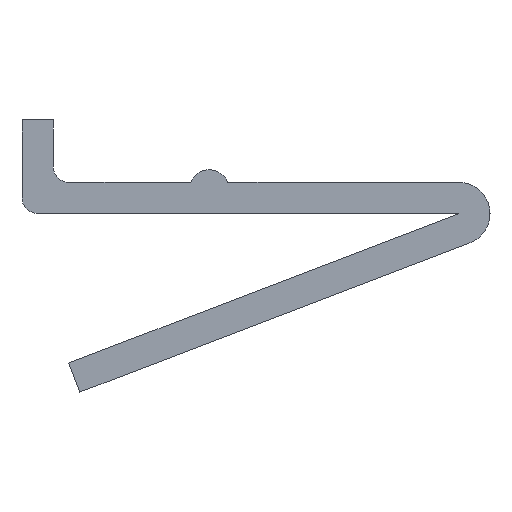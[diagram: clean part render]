
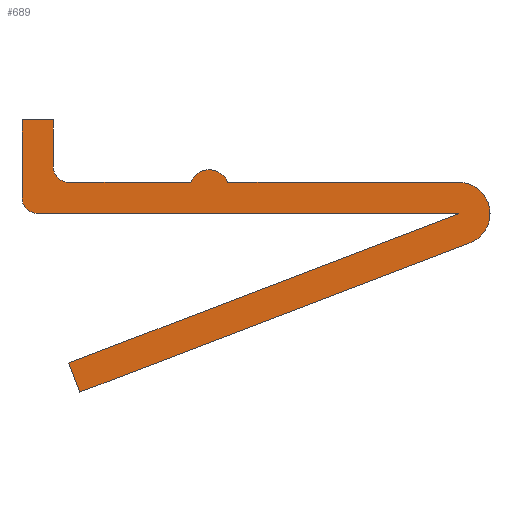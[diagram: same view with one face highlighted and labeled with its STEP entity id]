
A CAD part, left-side view. The second image highlights one B-rep face of the part: STEP entity #689.
In plain terms, the highlighted planar face has unit normal (-1, 0, 0).
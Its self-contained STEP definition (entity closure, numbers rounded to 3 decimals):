
#5 = CARTESIAN_POINT ( 'NONE',  ( 0., -3.876, 2.025 ) ) ;
#6 = CARTESIAN_POINT ( 'NONE',  ( 0., 3.518, 3.031 ) ) ;
#19 = PLANE ( 'NONE',  #674 ) ;
#28 = EDGE_LOOP ( 'NONE', ( #39, #650, #180, #541, #559, #449, #341, #691, #654, #389, #237, #436, #89, #778, #282 ) ) ;
#39 = ORIENTED_EDGE ( 'NONE', *, *, #461, .F. ) ;
#45 = LINE ( 'NONE', #726, #86 ) ;
#60 = AXIS2_PLACEMENT_3D ( 'NONE', #468, #764, #205 ) ;
#63 = VERTEX_POINT ( 'NONE', #257 ) ;
#66 = DIRECTION ( 'NONE',  ( 0., 0., -1. ) ) ;
#81 = DIRECTION ( 'NONE',  ( 0., 0., 1. ) ) ;
#86 = VECTOR ( 'NONE', #161, 1000. ) ;
#89 = ORIENTED_EDGE ( 'NONE', *, *, #352, .F. ) ;
#94 = AXIS2_PLACEMENT_3D ( 'NONE', #5, #342, #266 ) ;
#123 = LINE ( 'NONE', #754, #579 ) ;
#135 = CARTESIAN_POINT ( 'NONE',  ( 0., -3.876, 3.031 ) ) ;
#161 = DIRECTION ( 'NONE',  ( 0., 1., 0. ) ) ;
#164 = AXIS2_PLACEMENT_3D ( 'NONE', #660, #489, #794 ) ;
#180 = ORIENTED_EDGE ( 'NONE', *, *, #583, .F. ) ;
#183 = VECTOR ( 'NONE', #275, 1000. ) ;
#187 = DIRECTION ( 'NONE',  ( 0., 0., 1. ) ) ;
#200 = EDGE_CURVE ( 'NONE', #247, #621, #611, .T. ) ;
#201 = CARTESIAN_POINT ( 'NONE',  ( 0., 8.618, 3.031 ) ) ;
#204 = AXIS2_PLACEMENT_3D ( 'NONE', #503, #749, #187 ) ;
#205 = DIRECTION ( 'NONE',  ( 0., 0., -1. ) ) ;
#206 = VERTEX_POINT ( 'NONE', #731 ) ;
#207 = CARTESIAN_POINT ( 'NONE',  ( 0., -3.876, 2.031 ) ) ;
#218 = LINE ( 'NONE', #6, #320 ) ;
#224 = VERTEX_POINT ( 'NONE', #233 ) ;
#228 = DIRECTION ( 'NONE',  ( 0., -0.934, 0.357 ) ) ;
#229 = VERTEX_POINT ( 'NONE', #369 ) ;
#233 = CARTESIAN_POINT ( 'NONE',  ( 0., 8.26, -3.696 ) ) ;
#237 = ORIENTED_EDGE ( 'NONE', *, *, #388, .F. ) ;
#238 = CARTESIAN_POINT ( 'NONE',  ( 0., 9.118, 5.031 ) ) ;
#247 = VERTEX_POINT ( 'NONE', #359 ) ;
#257 = CARTESIAN_POINT ( 'NONE',  ( 0., 9.118, 3.531 ) ) ;
#259 = CARTESIAN_POINT ( 'NONE',  ( 0., 9.118, 5.031 ) ) ;
#261 = VERTEX_POINT ( 'NONE', #616 ) ;
#266 = DIRECTION ( 'NONE',  ( 0., 0., -1. ) ) ;
#267 = EDGE_CURVE ( 'NONE', #408, #206, #45, .T. ) ;
#274 = DIRECTION ( 'NONE',  ( 1., 0., 0. ) ) ;
#275 = DIRECTION ( 'NONE',  ( 0., -1., 0. ) ) ;
#279 = DIRECTION ( 'NONE',  ( 0., 0., 1. ) ) ;
#282 = ORIENTED_EDGE ( 'NONE', *, *, #495, .F. ) ;
#310 = DIRECTION ( 'NONE',  ( 0., -1., 0. ) ) ;
#320 = VECTOR ( 'NONE', #402, 1000. ) ;
#327 = CIRCLE ( 'NONE', #204, 0.5 ) ;
#336 = VERTEX_POINT ( 'NONE', #451 ) ;
#337 = CARTESIAN_POINT ( 'NONE',  ( 0., 4.118, 2.781 ) ) ;
#341 = ORIENTED_EDGE ( 'NONE', *, *, #536, .F. ) ;
#342 = DIRECTION ( 'NONE',  ( -1., 0., 0. ) ) ;
#348 = DIRECTION ( 'NONE',  ( -1., 0., 0. ) ) ;
#352 = EDGE_CURVE ( 'NONE', #336, #687, #712, .T. ) ;
#359 = CARTESIAN_POINT ( 'NONE',  ( 0., 8.618, -2.762 ) ) ;
#364 = EDGE_CURVE ( 'NONE', #612, #682, #218, .T. ) ;
#369 = CARTESIAN_POINT ( 'NONE',  ( 0., 10.118, 5.031 ) ) ;
#388 = EDGE_CURVE ( 'NONE', #479, #612, #429, .T. ) ;
#389 = ORIENTED_EDGE ( 'NONE', *, *, #364, .F. ) ;
#400 = DIRECTION ( 'NONE',  ( -1., 0., 0. ) ) ;
#402 = DIRECTION ( 'NONE',  ( 0., -1., 0. ) ) ;
#408 = VERTEX_POINT ( 'NONE', #207 ) ;
#409 = CARTESIAN_POINT ( 'NONE',  ( 0., 8.618, 3.531 ) ) ;
#410 = CARTESIAN_POINT ( 'NONE',  ( 0., 10.118, 5.031 ) ) ;
#414 = DIRECTION ( 'NONE',  ( 0., 0., 1. ) ) ;
#416 = EDGE_CURVE ( 'NONE', #605, #229, #770, .T. ) ;
#421 = CIRCLE ( 'NONE', #807, 0.65 ) ;
#429 = CIRCLE ( 'NONE', #60, 0.65 ) ;
#433 = VERTEX_POINT ( 'NONE', #238 ) ;
#434 = CIRCLE ( 'NONE', #94, 0.006 ) ;
#436 = ORIENTED_EDGE ( 'NONE', *, *, #697, .F. ) ;
#449 = ORIENTED_EDGE ( 'NONE', *, *, #200, .F. ) ;
#451 = CARTESIAN_POINT ( 'NONE',  ( 0., 8.618, 3.031 ) ) ;
#454 = CARTESIAN_POINT ( 'NONE',  ( 0., -4.236, 1.085 ) ) ;
#458 = LINE ( 'NONE', #454, #497 ) ;
#461 = EDGE_CURVE ( 'NONE', #229, #433, #123, .T. ) ;
#463 = CARTESIAN_POINT ( 'NONE',  ( 0., 8.618, 3.531 ) ) ;
#468 = CARTESIAN_POINT ( 'NONE',  ( 0., 4.118, 2.781 ) ) ;
#479 = VERTEX_POINT ( 'NONE', #508 ) ;
#489 = DIRECTION ( 'NONE',  ( 1., 0., 0. ) ) ;
#495 = EDGE_CURVE ( 'NONE', #433, #63, #619, .T. ) ;
#497 = VECTOR ( 'NONE', #774, 1000. ) ;
#499 = CARTESIAN_POINT ( 'NONE',  ( 0., 8.618, -2.762 ) ) ;
#503 = CARTESIAN_POINT ( 'NONE',  ( 0., 9.618, 2.531 ) ) ;
#508 = CARTESIAN_POINT ( 'NONE',  ( 0., 4.118, 3.431 ) ) ;
#521 = CARTESIAN_POINT ( 'NONE',  ( 0., 10.118, 2.531 ) ) ;
#524 = CIRCLE ( 'NONE', #164, 1.006 ) ;
#536 = EDGE_CURVE ( 'NONE', #224, #247, #805, .T. ) ;
#541 = ORIENTED_EDGE ( 'NONE', *, *, #267, .F. ) ;
#546 = VECTOR ( 'NONE', #81, 1000. ) ;
#559 = ORIENTED_EDGE ( 'NONE', *, *, #626, .F. ) ;
#561 = VECTOR ( 'NONE', #228, 1000. ) ;
#562 = DIRECTION ( 'NONE',  ( 0., 0., -1. ) ) ;
#567 = VECTOR ( 'NONE', #745, 1000. ) ;
#579 = VECTOR ( 'NONE', #310, 1000. ) ;
#583 = EDGE_CURVE ( 'NONE', #206, #605, #327, .T. ) ;
#596 = CARTESIAN_POINT ( 'NONE',  ( 0., 3.518, 3.031 ) ) ;
#605 = VERTEX_POINT ( 'NONE', #521 ) ;
#611 = LINE ( 'NONE', #792, #561 ) ;
#612 = VERTEX_POINT ( 'NONE', #596 ) ;
#616 = CARTESIAN_POINT ( 'NONE',  ( 0., -4.236, 1.085 ) ) ;
#617 = EDGE_CURVE ( 'NONE', #261, #224, #458, .T. ) ;
#619 = LINE ( 'NONE', #259, #759 ) ;
#621 = VERTEX_POINT ( 'NONE', #769 ) ;
#626 = EDGE_CURVE ( 'NONE', #621, #408, #434, .T. ) ;
#644 = CARTESIAN_POINT ( 'NONE',  ( 0., 4.717, 3.031 ) ) ;
#650 = ORIENTED_EDGE ( 'NONE', *, *, #416, .F. ) ;
#654 = ORIENTED_EDGE ( 'NONE', *, *, #772, .F. ) ;
#660 = CARTESIAN_POINT ( 'NONE',  ( 0., -3.876, 2.025 ) ) ;
#674 = AXIS2_PLACEMENT_3D ( 'NONE', #463, #400, #279 ) ;
#682 = VERTEX_POINT ( 'NONE', #135 ) ;
#687 = VERTEX_POINT ( 'NONE', #644 ) ;
#689 = ADVANCED_FACE ( 'NONE', ( #763 ), #19, .T. ) ;
#691 = ORIENTED_EDGE ( 'NONE', *, *, #617, .F. ) ;
#697 = EDGE_CURVE ( 'NONE', #687, #479, #421, .T. ) ;
#712 = LINE ( 'NONE', #201, #183 ) ;
#726 = CARTESIAN_POINT ( 'NONE',  ( 0., 9.618, 2.031 ) ) ;
#731 = CARTESIAN_POINT ( 'NONE',  ( 0., 9.618, 2.031 ) ) ;
#745 = DIRECTION ( 'NONE',  ( 0., 0.357, 0.934 ) ) ;
#749 = DIRECTION ( 'NONE',  ( 1., 0., 0. ) ) ;
#753 = EDGE_CURVE ( 'NONE', #63, #336, #765, .T. ) ;
#754 = CARTESIAN_POINT ( 'NONE',  ( 0., 10.118, 5.031 ) ) ;
#759 = VECTOR ( 'NONE', #562, 1000. ) ;
#763 = FACE_OUTER_BOUND ( 'NONE', #28, .T. ) ;
#764 = DIRECTION ( 'NONE',  ( 1., 0., 0. ) ) ;
#765 = CIRCLE ( 'NONE', #767, 0.5 ) ;
#767 = AXIS2_PLACEMENT_3D ( 'NONE', #409, #348, #414 ) ;
#769 = CARTESIAN_POINT ( 'NONE',  ( 0., -3.878, 2.019 ) ) ;
#770 = LINE ( 'NONE', #410, #546 ) ;
#772 = EDGE_CURVE ( 'NONE', #682, #261, #524, .T. ) ;
#774 = DIRECTION ( 'NONE',  ( 0., 0.934, -0.357 ) ) ;
#778 = ORIENTED_EDGE ( 'NONE', *, *, #753, .F. ) ;
#792 = CARTESIAN_POINT ( 'NONE',  ( 0., -3.878, 2.019 ) ) ;
#794 = DIRECTION ( 'NONE',  ( 0., 0., -1. ) ) ;
#805 = LINE ( 'NONE', #499, #567 ) ;
#807 = AXIS2_PLACEMENT_3D ( 'NONE', #337, #274, #66 ) ;
